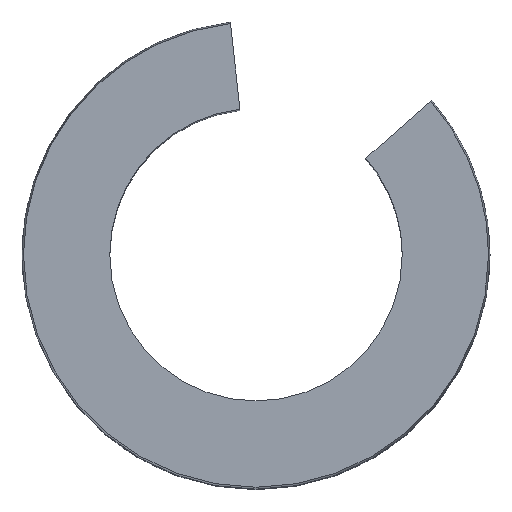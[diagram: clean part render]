
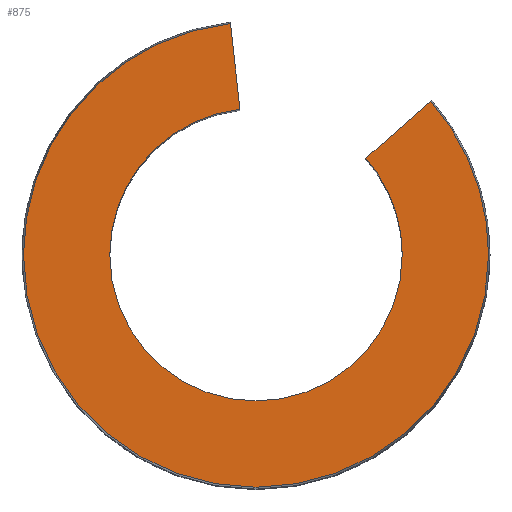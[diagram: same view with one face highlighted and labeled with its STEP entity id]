
A CAD part, top view. The second image highlights one B-rep face of the part: STEP entity #875.
In plain terms, the highlighted planar face has unit normal (0, 0, 1).
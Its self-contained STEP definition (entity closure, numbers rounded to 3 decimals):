
#439=CARTESIAN_POINT('',(13.101,1.811,45.0));
#440=VERTEX_POINT('',#439);
#448=CARTESIAN_POINT('',(9.146,12.305,45.0));
#449=VERTEX_POINT('',#448);
#456=CARTESIAN_POINT('',(-2.799,1.811,45.0));
#457=DIRECTION('',(0.0,0.0,-1.0));
#458=DIRECTION('',(-1.0,0.0,0.0));
#459=AXIS2_PLACEMENT_3D('',#456,#457,#458);
#460=CIRCLE('',#459,15.9);
#461=EDGE_CURVE('',#449,#440,#460,.T.);
#471=CARTESIAN_POINT('',(-18.699,1.811,45.0));
#472=VERTEX_POINT('',#471);
#479=CARTESIAN_POINT('',(-4.544,17.615,45.0));
#480=VERTEX_POINT('',#479);
#481=CARTESIAN_POINT('',(-2.799,1.811,45.0));
#482=DIRECTION('',(0.0,0.0,-1.0));
#483=DIRECTION('',(-1.0,0.0,0.0));
#484=AXIS2_PLACEMENT_3D('',#481,#482,#483);
#485=CIRCLE('',#484,15.9);
#486=EDGE_CURVE('',#472,#480,#485,.T.);
#513=CARTESIAN_POINT('',(7.201,1.811,45.0));
#514=VERTEX_POINT('',#513);
#521=CARTESIAN_POINT('',(4.714,8.411,45.0));
#522=VERTEX_POINT('',#521);
#523=CARTESIAN_POINT('',(-2.799,1.811,45.0));
#524=DIRECTION('',(0.0,0.0,-1.0));
#525=DIRECTION('',(-1.0,0.0,0.0));
#526=AXIS2_PLACEMENT_3D('',#523,#524,#525);
#527=CIRCLE('',#526,10.0);
#528=EDGE_CURVE('',#522,#514,#527,.T.);
#553=CARTESIAN_POINT('',(-12.799,1.811,45.0));
#554=VERTEX_POINT('',#553);
#563=CARTESIAN_POINT('',(-2.799,1.811,45.0));
#564=DIRECTION('',(0.0,0.0,-1.0));
#565=DIRECTION('',(-1.0,0.0,0.0));
#566=AXIS2_PLACEMENT_3D('',#563,#564,#565);
#567=CIRCLE('',#566,10.0);
#568=EDGE_CURVE('',#514,#554,#567,.T.);
#692=CARTESIAN_POINT('',(-3.896,11.751,45.0));
#693=VERTEX_POINT('',#692);
#760=CARTESIAN_POINT('',(-3.896,11.751,45.0));
#761=DIRECTION('',(-0.11,0.994,0.0));
#762=VECTOR('',#761,5.9);
#763=LINE('',#760,#762);
#764=EDGE_CURVE('',#693,#480,#763,.T.);
#775=CARTESIAN_POINT('',(9.146,12.305,45.0));
#776=DIRECTION('',(-0.751,-0.66,0.0));
#777=VECTOR('',#776,5.9);
#778=LINE('',#775,#777);
#779=EDGE_CURVE('',#449,#522,#778,.T.);
#844=CARTESIAN_POINT('',(-2.799,1.811,45.0));
#845=DIRECTION('',(0.0,0.0,-1.0));
#846=DIRECTION('',(-1.0,0.0,0.0));
#847=AXIS2_PLACEMENT_3D('',#844,#845,#846);
#848=CIRCLE('',#847,10.0);
#849=EDGE_CURVE('',#554,#693,#848,.T.);
#854=CARTESIAN_POINT('',(-2.799,1.811,45.0));
#855=DIRECTION('',(0.0,0.0,-1.0));
#856=DIRECTION('',(-1.0,0.0,0.0));
#857=AXIS2_PLACEMENT_3D('',#854,#855,#856);
#858=PLANE('',#857);
#859=ORIENTED_EDGE('',*,*,#764,.T.);
#860=ORIENTED_EDGE('',*,*,#486,.F.);
#861=CARTESIAN_POINT('',(-2.799,1.811,45.0));
#862=DIRECTION('',(0.0,0.0,-1.0));
#863=DIRECTION('',(-1.0,0.0,0.0));
#864=AXIS2_PLACEMENT_3D('',#861,#862,#863);
#865=CIRCLE('',#864,15.9);
#866=EDGE_CURVE('',#440,#472,#865,.T.);
#867=ORIENTED_EDGE('',*,*,#866,.F.);
#868=ORIENTED_EDGE('',*,*,#461,.F.);
#869=ORIENTED_EDGE('',*,*,#779,.T.);
#870=ORIENTED_EDGE('',*,*,#528,.T.);
#871=ORIENTED_EDGE('',*,*,#568,.T.);
#872=ORIENTED_EDGE('',*,*,#849,.T.);
#873=EDGE_LOOP('',(#859,#860,#867,#868,#869,#870,#871,#872));
#874=FACE_OUTER_BOUND('',#873,.T.);
#875=ADVANCED_FACE('',(#874),#858,.F.);
